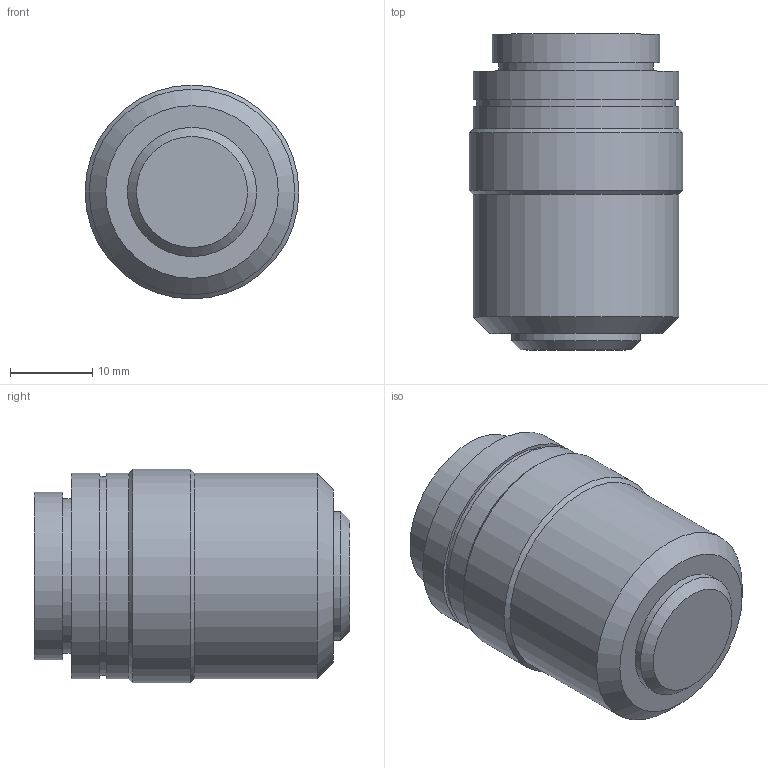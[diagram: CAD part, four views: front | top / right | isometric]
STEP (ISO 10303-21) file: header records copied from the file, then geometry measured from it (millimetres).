
FILE_DESCRIPTION((''),'2;1');
FILE_NAME('T:\Public\7_3次元データ\1図面ﾃﾞｰﾀ\7_素子\ＭＥオプティクス\長作動対物レンズ(EPL・EPLE)\ELPE\EPLE-20\EPLE-20.stp','2009-04-22T09:36:16',('okegawa'),(''),'Autodesk Inventor 2008','Autodesk Inventor 2008','');
FILE_SCHEMA(('AUTOMOTIVE_DESIGN { 1 0 10303 214 1 1 1 1 }'));
Length unit declared in the file: millimetre
Products named in the file (1): EPLE-20
Bounding box: 26 x 38.4 x 26 mm (x, y, z)
Volume: 17561.9 mm3; surface area: 3950.1 mm2
Topology: 1 solids, 1 shells, 19 faces, 30 edges, 18 vertices
Faces by surface type: cylinder 8, plane 7, cone 4
Full cylindrical faces by diameter (mm): 15.7 x1, 18.81 x1, 20.36 x1, 24.2 x1, 25 x3, 26 x1
Entity records: 400 total; most frequent: DIRECTION 76, CARTESIAN_POINT 56, AXIS2_PLACEMENT_3D 38, ORIENTED_EDGE 36, EDGE_LOOP 36, FACE_OUTER_BOUND 19, ADVANCED_FACE 19, VERTEX_POINT 18
